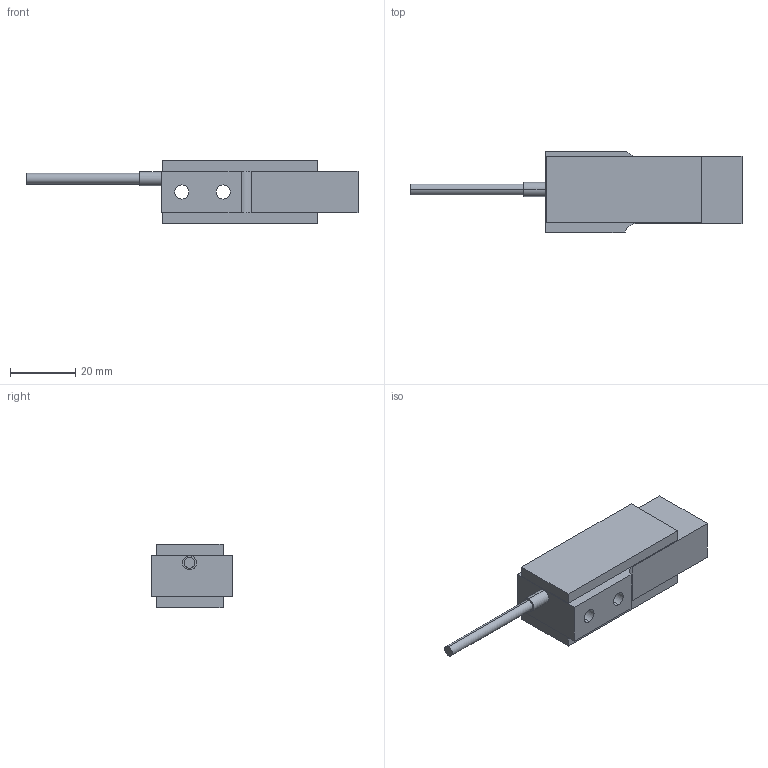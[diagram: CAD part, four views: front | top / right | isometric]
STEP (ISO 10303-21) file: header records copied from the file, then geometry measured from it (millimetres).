
FILE_DESCRIPTION (( 'STEP AP203' ), '1' );
FILE_NAME ('SSB-AJ-50.STEP', '2017-02-22T22:11:23', ( '' ), ( '' ), 'SwSTEP 2.0', 'SolidWorks 2013', '' );
FILE_SCHEMA (( 'CONFIG_CONTROL_DESIGN' ));
Length unit declared in the file: inch
Products named in the file (1): SSB-AJ-50
Bounding box: 101.98 x 24.89 x 19.56 mm (x, y, z)
Volume: 23463.2 mm3; surface area: 6941.7 mm2
Topology: 1 solids, 1 shells, 33 faces, 78 edges, 52 vertices
Faces by surface type: plane 21, cylinder 12
Entity records: 1043 total; most frequent: DIRECTION 170, CARTESIAN_POINT 164, ORIENTED_EDGE 156, EDGE_CURVE 78, AXIS2_PLACEMENT_3D 58, VECTOR 54, LINE 54, VERTEX_POINT 52
